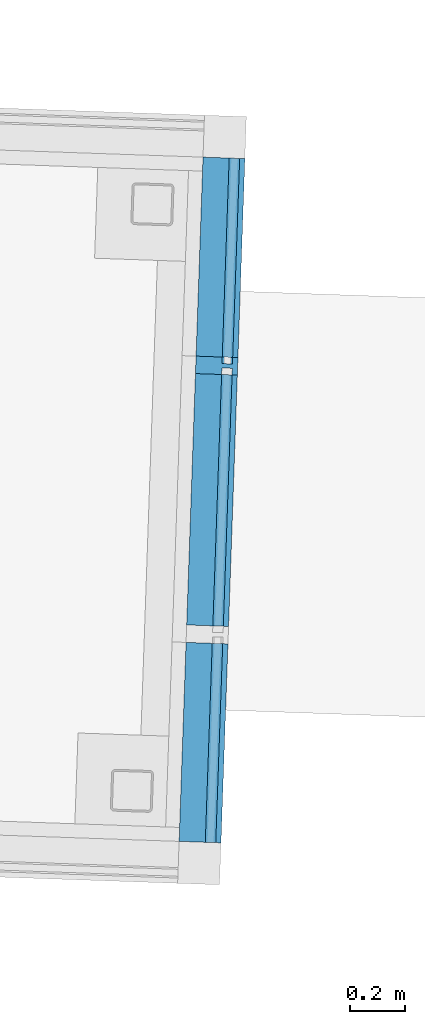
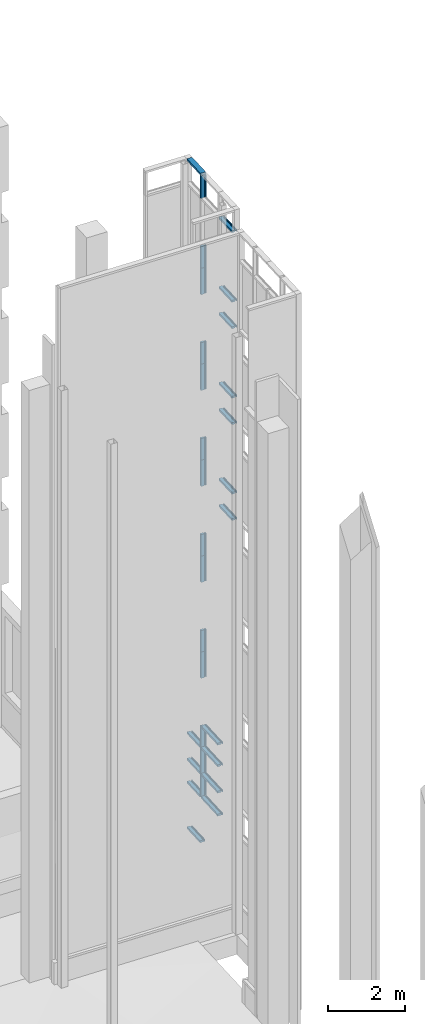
# One storey, part 19 of 44: 30 members, 1 element without a shape of its own.
"""IFC2X3 building model written with IfcOpenShell, lengths in feet."""

from ifc_helpers import new_model, entity, si_unit, converted_unit, derived_unit, direction, frame, origin, place, context, subcontext, project, spatial, polyline, outline, extrude, material, type_object, element, aggregate, save


model = new_model("IFC2X3")

# Units and contexts
model_context = context("Model", 3, precision=0.0001, world=origin(), true_north=direction((0.999390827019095, 0.0348994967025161)))
body_context = subcontext(model_context, "Body", "Model", "MODEL_VIEW")
ifc_project = project(units=[converted_unit("LENGTHUNIT", "FOOT", entity("IfcRatioMeasure", 0.3048), si_unit("LENGTHUNIT", "METRE"), dimensions=[1, 0, 0, 0, 0, 0, 0]), converted_unit("AREAUNIT", "SQUARE FOOT", entity("IfcRatioMeasure", 0.09290304), si_unit("AREAUNIT", "SQUARE_METRE"), dimensions=[2, 0, 0, 0, 0, 0, 0]), converted_unit("VOLUMEUNIT", "CUBIC FOOT", entity("IfcRatioMeasure", 0.028316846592), si_unit("VOLUMEUNIT", "CUBIC_METRE"), dimensions=[3, 0, 0, 0, 0, 0, 0]), converted_unit("PLANEANGLEUNIT", "DEGREE", entity("IfcRatioMeasure", 0.0174532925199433), si_unit("PLANEANGLEUNIT", "RADIAN"), dimensions=[0, 0, 0, 0, 0, 0, 0]), si_unit("MASSUNIT", "GRAM", prefix="KILO"), si_unit("TIMEUNIT", "SECOND"), si_unit("FREQUENCYUNIT", "HERTZ"), si_unit("THERMODYNAMICTEMPERATUREUNIT", "DEGREE_CELSIUS"), derived_unit("THERMALTRANSMITTANCEUNIT", [(si_unit("MASSUNIT", "GRAM", prefix="KILO"), 1), (si_unit("THERMODYNAMICTEMPERATUREUNIT", "KELVIN"), -1), (si_unit("TIMEUNIT", "SECOND"), -3)]), derived_unit("VOLUMETRICFLOWRATEUNIT", [(si_unit("LENGTHUNIT", "METRE"), 3), (si_unit("TIMEUNIT", "SECOND"), -1)]), si_unit("ELECTRICCURRENTUNIT", "AMPERE"), si_unit("ELECTRICVOLTAGEUNIT", "VOLT"), si_unit("POWERUNIT", "WATT"), si_unit("FORCEUNIT", "NEWTON"), si_unit("ILLUMINANCEUNIT", "LUX"), si_unit("LUMINOUSFLUXUNIT", "LUMEN"), si_unit("LUMINOUSINTENSITYUNIT", "CANDELA"), derived_unit("USERDEFINED", [(si_unit("MASSUNIT", "GRAM", prefix="KILO"), -1), (si_unit("LENGTHUNIT", "METRE"), -2), (si_unit("TIMEUNIT", "SECOND"), 3), (si_unit("LUMINOUSFLUXUNIT", "LUMEN"), 1)]), derived_unit("LINEARVELOCITYUNIT", [(si_unit("LENGTHUNIT", "METRE"), 1), (si_unit("TIMEUNIT", "SECOND"), -1)]), si_unit("PRESSUREUNIT", "PASCAL"), derived_unit("USERDEFINED", [(si_unit("LENGTHUNIT", "METRE"), -2), (si_unit("MASSUNIT", "GRAM", prefix="KILO"), 1), (si_unit("TIMEUNIT", "SECOND"), -2)])], contexts=[model_context])

# Site, building, storey
site_placement = place(None, frame((892.518771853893, 322.38689265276, 0.00393700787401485), z_axis=(0.0, 0.0, 1.0), x_axis=(0.0348994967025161, 0.999390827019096, 0.0)))
site = spatial("IfcSite", under=ifc_project, at=site_placement, Name="Default", CompositionType="ELEMENT")
building_placement = place(site_placement, origin())
building = spatial("IfcBuilding", under=site, at=building_placement, CompositionType="ELEMENT")
storey_placement = place(building_placement, frame((0.0, 0.0, 544.75)))
storey = spatial("IfcBuildingStorey", under=building, at=storey_placement, Name="Exist Garage - Ground Level", CompositionType="ELEMENT", Elevation=544.75)

# Curtain wall, members
curtain_wall_type = type_object("IfcCurtainWallType", Name="Curtain Wall:(Existing) Curtainwall - Blank", PredefinedType="NOTDEFINED")
curtain_wall_placement = place(storey_placement, frame((0.0, 0.0, -544.75)))
curtain_wall = element("IfcCurtainWall", 1, at=curtain_wall_placement, inside=storey, type_object=curtain_wall_type, Name="Curtain Wall:(Existing) Curtainwall - Blank", ObjectType="Curtain Wall:(Existing) Curtainwall - Blank")
ifc_material = material(Name="Metal - Aluminum")
member_1_placement = place(curtain_wall_placement, frame((0.0, 0.0, 544.75)))
member_1 = element("IfcMember", 2, at=member_1_placement, material=ifc_material, Name="Curtain Wall:(Existing) Curtainwall - Blank", ObjectType="Curtain Wall:(Existing) Curtainwall - Blank", context=body_context, shape_type="SweptSolid", body=[
    extrude(outline(polyline([(-0.0716145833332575, -0.1875), (0.136718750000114, -0.1875), (0.136718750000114, 0.3125), (-0.0716145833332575, 0.3125), (-0.0716145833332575, 0.0), (0.00651041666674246, 0.0), (0.00651041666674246, -0.125), (-0.0716145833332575, -0.125), (-0.0716145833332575, -0.1875)])), frame((111.552294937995, 230.951453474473, 2.38671875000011), z_axis=(1.0, 0.0, 0.0), x_axis=(0.0, 0.0, -1.0)), (0.0, 0.0, 1.0), 2.37500186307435),
])
member_2_placement = place(curtain_wall_placement, frame((0.0, 0.0, 544.75)))
member_2 = element("IfcMember", 3, at=member_2_placement, material=ifc_material, Name="Curtain Wall:(Existing) Curtainwall - Blank", ObjectType="Curtain Wall:(Existing) Curtainwall - Blank", context=body_context, shape_type="SweptSolid", body=[
    extrude(outline(polyline([(-0.13671875, -0.3125), (0.0716145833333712, -0.3125), (0.0716145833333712, 0.0), (-0.00651041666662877, 0.0), (-0.00651041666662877, 0.125), (0.0716145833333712, 0.125), (0.0716145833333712, 0.1875), (-0.13671875, 0.1875), (-0.13671875, -0.3125)])), frame((113.927296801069, 230.951453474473, 71.9466145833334), z_axis=(-1.0, 0.0, 0.0), x_axis=(0.0, 0.0, -1.0)), (0.0, 0.0, 1.0), 2.47916852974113),
])
member_3_placement = place(curtain_wall_placement, frame((0.0, 0.0, 544.75)))
member_3 = element("IfcMember", 4, at=member_3_placement, material=ifc_material, Name="Curtain Wall:(Existing) Curtainwall - Blank", ObjectType="Curtain Wall:(Existing) Curtainwall - Blank", context=body_context, shape_type="SweptSolid", body=[
    extrude(outline(polyline([(-0.104166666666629, -0.333333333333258), (0.104166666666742, -0.333333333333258), (0.104166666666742, -0.0208333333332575), (0.0260416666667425, -0.0208333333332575), (0.0260416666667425, 0.104166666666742), (0.104166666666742, 0.104166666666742), (0.104166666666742, 0.166666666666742), (-0.104166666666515, 0.166666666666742), (-0.104166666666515, 0.104166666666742), (-0.0260416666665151, 0.104166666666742), (-0.0260416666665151, -0.0208333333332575), (-0.104166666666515, -0.0208333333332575), (-0.104166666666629, -0.333333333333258)])), frame((113.92729680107, 230.93062014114, 9.50000000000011), z_axis=(-1.0, 0.0, 0.0), x_axis=(0.0, 0.0, -1.0)), (0.0, 0.0, 1.0), 2.37500186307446),
])
member_4_placement = place(curtain_wall_placement, frame((0.0, 0.0, 544.75)))
member_4 = element("IfcMember", 5, at=member_4_placement, material=ifc_material, Name="Curtain Wall:(Existing) Curtainwall - Blank", ObjectType="Curtain Wall:(Existing) Curtainwall - Blank", context=body_context, shape_type="SweptSolid", body=[
    extrude(outline(polyline([(-0.104166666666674, -0.333333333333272), (0.104166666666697, -0.333333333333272), (0.10416666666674, -0.0208333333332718), (0.0260416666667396, -0.0208333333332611), (0.0260416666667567, 0.104166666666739), (0.104166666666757, 0.104166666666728), (0.104166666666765, 0.166666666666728), (-0.104166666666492, 0.166666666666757), (-0.104166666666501, 0.104166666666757), (-0.0260416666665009, 0.104166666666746), (-0.0260416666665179, -0.020833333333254), (-0.104166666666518, -0.0208333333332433), (-0.104166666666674, -0.333333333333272)])), frame((111.343961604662, 230.93062014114, 9.50000000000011), z_axis=(-1.0, 0.0, 0.0), x_axis=(0.0, 0.0, -1.0)), (0.0, 0.0, 1.0), 3.00000000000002),
])
member_5_placement = place(curtain_wall_placement, frame((0.0, 0.0, 544.75)))
member_5 = element("IfcMember", 6, at=member_5_placement, material=ifc_material, Name="Curtain Wall:(Existing) Curtainwall - Blank", ObjectType="Curtain Wall:(Existing) Curtainwall - Blank", context=body_context, shape_type="SweptSolid", body=[
    extrude(outline(polyline([(-0.104166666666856, -0.333333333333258), (0.104166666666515, -0.333333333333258), (0.104166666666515, -0.0208333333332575), (0.0260416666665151, -0.0208333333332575), (0.0260416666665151, 0.104166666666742), (0.104166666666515, 0.104166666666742), (0.104166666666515, 0.166666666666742), (-0.104166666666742, 0.166666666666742), (-0.104166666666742, 0.104166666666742), (-0.0260416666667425, 0.104166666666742), (-0.0260416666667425, -0.0208333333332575), (-0.104166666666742, -0.0208333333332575), (-0.104166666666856, -0.333333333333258)])), frame((113.92729680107, 230.93062014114, 7.10416666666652), z_axis=(-1.0, 0.0, 0.0), x_axis=(0.0, 0.0, -1.0)), (0.0, 0.0, 1.0), 2.37500186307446),
])
member_6_placement = place(curtain_wall_placement, frame((0.0, 0.0, 544.75)))
member_6 = element("IfcMember", 7, at=member_6_placement, material=ifc_material, Name="Curtain Wall:(Existing) Curtainwall - Blank", ObjectType="Curtain Wall:(Existing) Curtainwall - Blank", context=body_context, shape_type="SweptSolid", body=[
    extrude(outline(polyline([(-0.0716145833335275, -0.31249999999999), (0.136718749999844, -0.31249999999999), (0.136718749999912, 0.18750000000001), (-0.0716145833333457, 0.187500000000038), (-0.0716145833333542, 0.125000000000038), (0.00651041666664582, 0.125000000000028), (0.00651041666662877, 0.0), (-0.0716145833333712, 0.0), (-0.0716145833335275, -0.31249999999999)])), frame((111.343961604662, 230.951453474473, 7.13671874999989), z_axis=(-1.0, 0.0, 0.0), x_axis=(0.0, 0.0, -1.0)), (0.0, 0.0, 1.0), 3.00000000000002),
])
member_7_placement = place(curtain_wall_placement, frame((0.0, 0.0, 544.75)))
member_7 = element("IfcMember", 8, at=member_7_placement, material=ifc_material, Name="Curtain Wall:(Existing) Curtainwall - Blank", ObjectType="Curtain Wall:(Existing) Curtainwall - Blank", context=body_context, shape_type="SweptSolid", body=[
    extrude(outline(polyline([(-0.104166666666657, -0.333333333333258), (0.104166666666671, -0.333333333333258), (0.104166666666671, -0.0208333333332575), (0.0260416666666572, -0.0208333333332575), (0.0260416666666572, 0.104166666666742), (0.104166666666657, 0.104166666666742), (0.104166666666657, 0.166666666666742), (-0.104166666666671, 0.166666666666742), (-0.104166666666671, 0.104166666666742), (-0.0260416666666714, 0.104166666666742), (-0.0260416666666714, -0.0208333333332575), (-0.104166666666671, -0.0208333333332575), (-0.104166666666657, -0.333333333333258)])), frame((111.448128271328, 230.93062014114, 9.5), z_axis=(0.0, 0.0, 1.0), x_axis=(-1.0, 0.0, 0.0)), (0.0, 0.0, 1.0), 2.75),
])
member_8_placement = place(curtain_wall_placement, frame((0.0, 0.0, 544.75)))
member_8 = element("IfcMember", 9, at=member_8_placement, material=ifc_material, Name="Curtain Wall:(Existing) Curtainwall - Blank", ObjectType="Curtain Wall:(Existing) Curtainwall - Blank", context=body_context, shape_type="SweptSolid", body=[
    extrude(outline(polyline([(-0.104166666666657, -0.333333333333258), (0.104166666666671, -0.333333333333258), (0.104166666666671, -0.0208333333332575), (0.0260416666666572, -0.0208333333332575), (0.0260416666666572, 0.104166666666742), (0.104166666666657, 0.104166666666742), (0.104166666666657, 0.166666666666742), (-0.104166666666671, 0.166666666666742), (-0.104166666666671, 0.104166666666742), (-0.0260416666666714, 0.104166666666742), (-0.0260416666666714, -0.0208333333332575), (-0.104166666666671, -0.0208333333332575), (-0.104166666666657, -0.333333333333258)])), frame((111.448128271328, 230.93062014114, 12.25), z_axis=(0.0, 0.0, 1.0), x_axis=(-1.0, 0.0, 0.0)), (0.0, 0.0, 1.0), 2.25),
])
member_9_placement = place(curtain_wall_placement, frame((0.0, 0.0, 544.75)))
member_9 = element("IfcMember", 10, at=member_9_placement, material=ifc_material, Name="Curtain Wall:(Existing) Curtainwall - Blank", ObjectType="Curtain Wall:(Existing) Curtainwall - Blank", context=body_context, shape_type="SweptSolid", body=[
    extrude(outline(polyline([(-0.104166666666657, -0.333333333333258), (0.104166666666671, -0.333333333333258), (0.104166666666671, -0.0208333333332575), (0.0260416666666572, -0.0208333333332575), (0.0260416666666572, 0.104166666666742), (0.104166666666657, 0.104166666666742), (0.104166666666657, 0.166666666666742), (-0.104166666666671, 0.166666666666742), (-0.104166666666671, 0.104166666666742), (-0.0260416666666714, 0.104166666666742), (-0.0260416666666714, -0.0208333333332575), (-0.104166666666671, -0.0208333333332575), (-0.104166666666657, -0.333333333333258)])), frame((111.448128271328, 230.93062014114, 19.5), z_axis=(0.0, 0.0, 1.0), x_axis=(-1.0, 0.0, 0.0)), (0.0, 0.0, 1.0), 2.75),
])
member_10_placement = place(curtain_wall_placement, frame((0.0, 0.0, 544.75)))
member_10 = element("IfcMember", 11, at=member_10_placement, material=ifc_material, Name="Curtain Wall:(Existing) Curtainwall - Blank", ObjectType="Curtain Wall:(Existing) Curtainwall - Blank", context=body_context, shape_type="SweptSolid", body=[
    extrude(outline(polyline([(-0.104166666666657, -0.333333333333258), (0.104166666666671, -0.333333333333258), (0.104166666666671, -0.0208333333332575), (0.0260416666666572, -0.0208333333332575), (0.0260416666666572, 0.104166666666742), (0.104166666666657, 0.104166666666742), (0.104166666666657, 0.166666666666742), (-0.104166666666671, 0.166666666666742), (-0.104166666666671, 0.104166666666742), (-0.0260416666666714, 0.104166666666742), (-0.0260416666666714, -0.0208333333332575), (-0.104166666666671, -0.0208333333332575), (-0.104166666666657, -0.333333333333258)])), frame((111.448128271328, 230.93062014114, 22.25), z_axis=(0.0, 0.0, 1.0), x_axis=(-1.0, 0.0, 0.0)), (0.0, 0.0, 1.0), 2.25),
])
member_11_placement = place(curtain_wall_placement, frame((0.0, 0.0, 544.75)))
member_11 = element("IfcMember", 12, at=member_11_placement, material=ifc_material, Name="Curtain Wall:(Existing) Curtainwall - Blank", ObjectType="Curtain Wall:(Existing) Curtainwall - Blank", context=body_context, shape_type="SweptSolid", body=[
    extrude(outline(polyline([(-0.104166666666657, -0.333333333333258), (0.104166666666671, -0.333333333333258), (0.104166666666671, -0.0208333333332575), (0.0260416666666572, -0.0208333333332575), (0.0260416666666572, 0.104166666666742), (0.104166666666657, 0.104166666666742), (0.104166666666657, 0.166666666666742), (-0.104166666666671, 0.166666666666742), (-0.104166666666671, 0.104166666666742), (-0.0260416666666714, 0.104166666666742), (-0.0260416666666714, -0.0208333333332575), (-0.104166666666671, -0.0208333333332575), (-0.104166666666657, -0.333333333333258)])), frame((111.448128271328, 230.93062014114, 29.5), z_axis=(0.0, 0.0, 1.0), x_axis=(-1.0, 0.0, 0.0)), (0.0, 0.0, 1.0), 2.75),
])
member_12_placement = place(curtain_wall_placement, frame((0.0, 0.0, 544.75)))
member_12 = element("IfcMember", 13, at=member_12_placement, material=ifc_material, Name="Curtain Wall:(Existing) Curtainwall - Blank", ObjectType="Curtain Wall:(Existing) Curtainwall - Blank", context=body_context, shape_type="SweptSolid", body=[
    extrude(outline(polyline([(-0.104166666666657, -0.333333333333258), (0.104166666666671, -0.333333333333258), (0.104166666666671, -0.0208333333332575), (0.0260416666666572, -0.0208333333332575), (0.0260416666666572, 0.104166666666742), (0.104166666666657, 0.104166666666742), (0.104166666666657, 0.166666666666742), (-0.104166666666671, 0.166666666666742), (-0.104166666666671, 0.104166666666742), (-0.0260416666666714, 0.104166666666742), (-0.0260416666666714, -0.0208333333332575), (-0.104166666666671, -0.0208333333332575), (-0.104166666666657, -0.333333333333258)])), frame((111.448128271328, 230.93062014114, 32.25), z_axis=(0.0, 0.0, 1.0), x_axis=(-1.0, 0.0, 0.0)), (0.0, 0.0, 1.0), 2.25),
])
member_13_placement = place(curtain_wall_placement, frame((0.0, 0.0, 544.75)))
member_13 = element("IfcMember", 14, at=member_13_placement, material=ifc_material, Name="Curtain Wall:(Existing) Curtainwall - Blank", ObjectType="Curtain Wall:(Existing) Curtainwall - Blank", context=body_context, shape_type="SweptSolid", body=[
    extrude(outline(polyline([(-0.104166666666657, -0.333333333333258), (0.104166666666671, -0.333333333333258), (0.104166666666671, -0.0208333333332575), (0.0260416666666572, -0.0208333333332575), (0.0260416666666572, 0.104166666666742), (0.104166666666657, 0.104166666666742), (0.104166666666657, 0.166666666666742), (-0.104166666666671, 0.166666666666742), (-0.104166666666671, 0.104166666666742), (-0.0260416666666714, 0.104166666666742), (-0.0260416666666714, -0.0208333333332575), (-0.104166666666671, -0.0208333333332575), (-0.104166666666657, -0.333333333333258)])), frame((111.448128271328, 230.93062014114, 39.5), z_axis=(0.0, 0.0, 1.0), x_axis=(-1.0, 0.0, 0.0)), (0.0, 0.0, 1.0), 2.75),
])
member_14_placement = place(curtain_wall_placement, frame((0.0, 0.0, 544.75)))
member_14 = element("IfcMember", 15, at=member_14_placement, material=ifc_material, Name="Curtain Wall:(Existing) Curtainwall - Blank", ObjectType="Curtain Wall:(Existing) Curtainwall - Blank", context=body_context, shape_type="SweptSolid", body=[
    extrude(outline(polyline([(-0.104166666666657, -0.333333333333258), (0.104166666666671, -0.333333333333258), (0.104166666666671, -0.0208333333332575), (0.0260416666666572, -0.0208333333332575), (0.0260416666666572, 0.104166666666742), (0.104166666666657, 0.104166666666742), (0.104166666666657, 0.166666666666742), (-0.104166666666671, 0.166666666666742), (-0.104166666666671, 0.104166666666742), (-0.0260416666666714, 0.104166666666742), (-0.0260416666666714, -0.0208333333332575), (-0.104166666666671, -0.0208333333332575), (-0.104166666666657, -0.333333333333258)])), frame((111.448128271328, 230.93062014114, 42.25), z_axis=(0.0, 0.0, 1.0), x_axis=(-1.0, 0.0, 0.0)), (0.0, 0.0, 1.0), 2.25),
])
member_15_placement = place(curtain_wall_placement, frame((0.0, 0.0, 544.75)))
member_15 = element("IfcMember", 16, at=member_15_placement, material=ifc_material, Name="Curtain Wall:(Existing) Curtainwall - Blank", ObjectType="Curtain Wall:(Existing) Curtainwall - Blank", context=body_context, shape_type="SweptSolid", body=[
    extrude(outline(polyline([(-0.104166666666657, -0.333333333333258), (0.104166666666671, -0.333333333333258), (0.104166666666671, -0.0208333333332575), (0.0260416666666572, -0.0208333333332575), (0.0260416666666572, 0.104166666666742), (0.104166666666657, 0.104166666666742), (0.104166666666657, 0.166666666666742), (-0.104166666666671, 0.166666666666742), (-0.104166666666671, 0.104166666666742), (-0.0260416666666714, 0.104166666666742), (-0.0260416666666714, -0.0208333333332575), (-0.104166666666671, -0.0208333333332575), (-0.104166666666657, -0.333333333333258)])), frame((111.448128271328, 230.93062014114, 49.5), z_axis=(0.0, 0.0, 1.0), x_axis=(-1.0, 0.0, 0.0)), (0.0, 0.0, 1.0), 2.75),
])
member_16_placement = place(curtain_wall_placement, frame((0.0, 0.0, 544.75)))
member_16 = element("IfcMember", 17, at=member_16_placement, material=ifc_material, Name="Curtain Wall:(Existing) Curtainwall - Blank", ObjectType="Curtain Wall:(Existing) Curtainwall - Blank", context=body_context, shape_type="SweptSolid", body=[
    extrude(outline(polyline([(-0.104166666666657, -0.333333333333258), (0.104166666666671, -0.333333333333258), (0.104166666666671, -0.0208333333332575), (0.0260416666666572, -0.0208333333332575), (0.0260416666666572, 0.104166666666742), (0.104166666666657, 0.104166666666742), (0.104166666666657, 0.166666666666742), (-0.104166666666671, 0.166666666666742), (-0.104166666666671, 0.104166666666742), (-0.0260416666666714, 0.104166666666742), (-0.0260416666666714, -0.0208333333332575), (-0.104166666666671, -0.0208333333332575), (-0.104166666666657, -0.333333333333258)])), frame((111.448128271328, 230.93062014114, 52.25), z_axis=(0.0, 0.0, 1.0), x_axis=(-1.0, 0.0, 0.0)), (0.0, 0.0, 1.0), 2.25),
])
member_17_placement = place(curtain_wall_placement, frame((0.0, 0.0, 544.75)))
member_17 = element("IfcMember", 18, at=member_17_placement, material=ifc_material, Name="Curtain Wall:(Existing) Curtainwall - Blank", ObjectType="Curtain Wall:(Existing) Curtainwall - Blank", context=body_context, shape_type="SweptSolid", body=[
    extrude(outline(polyline([(-0.104166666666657, -0.333333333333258), (0.104166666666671, -0.333333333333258), (0.104166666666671, -0.0208333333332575), (0.0260416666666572, -0.0208333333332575), (0.0260416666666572, 0.104166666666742), (0.104166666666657, 0.104166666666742), (0.104166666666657, 0.166666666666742), (-0.104166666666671, 0.166666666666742), (-0.104166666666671, 0.104166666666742), (-0.0260416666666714, 0.104166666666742), (-0.0260416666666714, -0.0208333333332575), (-0.104166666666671, -0.0208333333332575), (-0.104166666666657, -0.333333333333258)])), frame((111.448128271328, 230.93062014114, 59.5), z_axis=(0.0, 0.0, 1.0), x_axis=(-1.0, 0.0, 0.0)), (0.0, 0.0, 1.0), 2.75),
])
member_18_placement = place(curtain_wall_placement, frame((0.0, 0.0, 544.75)))
member_18 = element("IfcMember", 19, at=member_18_placement, material=ifc_material, Name="Curtain Wall:(Existing) Curtainwall - Blank", ObjectType="Curtain Wall:(Existing) Curtainwall - Blank", context=body_context, shape_type="SweptSolid", body=[
    extrude(outline(polyline([(-0.104166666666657, -0.333333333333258), (0.104166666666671, -0.333333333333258), (0.104166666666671, -0.0208333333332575), (0.0260416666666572, -0.0208333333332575), (0.0260416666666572, 0.104166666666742), (0.104166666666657, 0.104166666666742), (0.104166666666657, 0.166666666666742), (-0.104166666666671, 0.166666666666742), (-0.104166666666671, 0.104166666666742), (-0.0260416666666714, 0.104166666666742), (-0.0260416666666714, -0.0208333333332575), (-0.104166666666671, -0.0208333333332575), (-0.104166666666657, -0.333333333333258)])), frame((111.448128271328, 230.93062014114, 62.25), z_axis=(0.0, 0.0, 1.0), x_axis=(-1.0, 0.0, 0.0)), (0.0, 0.0, 1.0), 2.25),
])
member_19_placement = place(curtain_wall_placement, frame((0.0, 0.0, 544.75)))
member_19 = element("IfcMember", 20, at=member_19_placement, material=ifc_material, Name="Curtain Wall:(Existing) Curtainwall - Blank", ObjectType="Curtain Wall:(Existing) Curtainwall - Blank", context=body_context, shape_type="SweptSolid", body=[
    extrude(outline(polyline([(-0.104166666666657, -0.333333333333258), (0.104166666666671, -0.333333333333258), (0.104166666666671, -0.0208333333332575), (0.0260416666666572, -0.0208333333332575), (0.0260416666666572, 0.104166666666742), (0.104166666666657, 0.104166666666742), (0.104166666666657, 0.166666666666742), (-0.104166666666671, 0.166666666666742), (-0.104166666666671, 0.104166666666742), (-0.0260416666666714, 0.104166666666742), (-0.0260416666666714, -0.0208333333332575), (-0.104166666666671, -0.0208333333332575), (-0.104166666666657, -0.333333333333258)])), frame((111.448128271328, 230.93062014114, 69.5), z_axis=(0.0, 0.0, 1.0), x_axis=(-1.0, 0.0, 0.0)), (0.0, 0.0, 1.0), 2.375),
])
member_20_placement = place(curtain_wall_placement, frame((0.0, 0.0, 544.75)))
member_20 = element("IfcMember", 21, at=member_20_placement, material=ifc_material, Name="Curtain Wall:(Existing) Curtainwall - Blank", ObjectType="Curtain Wall:(Existing) Curtainwall - Blank", context=body_context, shape_type="SweptSolid", body=[
    extrude(outline(polyline([(-0.104166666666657, -0.333333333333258), (0.104166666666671, -0.333333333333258), (0.104166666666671, -0.0208333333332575), (0.0260416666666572, -0.0208333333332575), (0.0260416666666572, 0.104166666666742), (0.104166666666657, 0.104166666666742), (0.104166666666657, 0.166666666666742), (-0.104166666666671, 0.166666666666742), (-0.104166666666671, 0.104166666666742), (-0.0260416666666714, 0.104166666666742), (-0.0260416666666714, -0.0208333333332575), (-0.104166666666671, -0.0208333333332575), (-0.104166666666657, -0.333333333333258)])), frame((111.448128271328, 230.93062014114, 7.10416666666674), z_axis=(0.0, 0.0, 1.0), x_axis=(-1.0, 0.0, 0.0)), (0.0, 0.0, 1.0), 2.39583333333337),
])
member_21_placement = place(curtain_wall_placement, frame((0.0, 0.0, 544.75)))
member_21 = element("IfcMember", 22, at=member_21_placement, material=ifc_material, Name="Curtain Wall:(Existing) Curtainwall - Blank", ObjectType="Curtain Wall:(Existing) Curtainwall - Blank", context=body_context, shape_type="SweptSolid", body=[
    extrude(outline(polyline([(-0.104166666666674, -0.333333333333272), (0.104166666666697, -0.333333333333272), (0.10416666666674, -0.0208333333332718), (0.0260416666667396, -0.0208333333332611), (0.0260416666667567, 0.104166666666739), (0.104166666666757, 0.104166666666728), (0.104166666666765, 0.166666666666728), (-0.104166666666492, 0.166666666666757), (-0.104166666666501, 0.104166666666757), (-0.0260416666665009, 0.104166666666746), (-0.0260416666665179, -0.020833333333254), (-0.104166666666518, -0.0208333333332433), (-0.104166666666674, -0.333333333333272)])), frame((111.343961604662, 230.93062014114, 12.2500000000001), z_axis=(-1.0, 0.0, 0.0), x_axis=(0.0, 0.0, -1.0)), (0.0, 0.0, 1.0), 3.00000000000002),
])
member_22_placement = place(curtain_wall_placement, frame((0.0, 0.0, 544.75)))
member_22 = element("IfcMember", 23, at=member_22_placement, material=ifc_material, Name="Curtain Wall:(Existing) Curtainwall - Blank", ObjectType="Curtain Wall:(Existing) Curtainwall - Blank", context=body_context, shape_type="SweptSolid", body=[
    extrude(outline(polyline([(-0.104166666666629, -0.333333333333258), (0.104166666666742, -0.333333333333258), (0.104166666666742, -0.0208333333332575), (0.0260416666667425, -0.0208333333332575), (0.0260416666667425, 0.104166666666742), (0.104166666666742, 0.104166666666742), (0.104166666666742, 0.166666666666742), (-0.104166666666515, 0.166666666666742), (-0.104166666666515, 0.104166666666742), (-0.0260416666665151, 0.104166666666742), (-0.0260416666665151, -0.0208333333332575), (-0.104166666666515, -0.0208333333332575), (-0.104166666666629, -0.333333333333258)])), frame((113.92729680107, 230.93062014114, 12.2500000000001), z_axis=(-1.0, 0.0, 0.0), x_axis=(0.0, 0.0, -1.0)), (0.0, 0.0, 1.0), 2.37500186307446),
])
member_23_placement = place(curtain_wall_placement, frame((0.0, 0.0, 544.75)))
member_23 = element("IfcMember", 24, at=member_23_placement, material=ifc_material, Name="Curtain Wall:(Existing) Curtainwall - Blank", ObjectType="Curtain Wall:(Existing) Curtainwall - Blank", context=body_context, shape_type="SweptSolid", body=[
    extrude(outline(polyline([(-0.104166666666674, -0.333333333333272), (0.104166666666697, -0.333333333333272), (0.10416666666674, -0.0208333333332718), (0.0260416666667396, -0.0208333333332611), (0.0260416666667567, 0.104166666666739), (0.104166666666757, 0.104166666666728), (0.104166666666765, 0.166666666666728), (-0.104166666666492, 0.166666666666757), (-0.104166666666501, 0.104166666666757), (-0.0260416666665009, 0.104166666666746), (-0.0260416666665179, -0.020833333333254), (-0.104166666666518, -0.0208333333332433), (-0.104166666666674, -0.333333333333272)])), frame((111.343961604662, 230.93062014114, 14.5000000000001), z_axis=(-1.0, 0.0, 0.0), x_axis=(0.0, 0.0, -1.0)), (0.0, 0.0, 1.0), 3.00000000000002),
])
member_24_placement = place(curtain_wall_placement, frame((0.0, 0.0, 544.75)))
member_24 = element("IfcMember", 25, at=member_24_placement, material=ifc_material, Name="Curtain Wall:(Existing) Curtainwall - Blank", ObjectType="Curtain Wall:(Existing) Curtainwall - Blank", context=body_context, shape_type="SweptSolid", body=[
    extrude(outline(polyline([(-0.104166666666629, -0.333333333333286), (0.104166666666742, -0.333333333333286), (0.104166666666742, -0.020833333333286), (0.0260416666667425, -0.020833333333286), (0.0260416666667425, 0.104166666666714), (0.104166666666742, 0.104166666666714), (0.104166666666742, 0.166666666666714), (-0.104166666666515, 0.166666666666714), (-0.104166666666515, 0.104166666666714), (-0.0260416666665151, 0.104166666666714), (-0.0260416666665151, -0.020833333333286), (-0.104166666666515, -0.020833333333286), (-0.104166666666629, -0.333333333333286)])), frame((108.135628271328, 230.93062014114, 39.5000000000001), z_axis=(-1.0, 0.0, 0.0), x_axis=(0.0, 0.0, -1.0)), (0.0, 0.0, 1.0), 2.37500186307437),
])
member_25_placement = place(curtain_wall_placement, frame((0.0, 0.0, 544.75)))
member_25 = element("IfcMember", 26, at=member_25_placement, material=ifc_material, Name="Curtain Wall:(Existing) Curtainwall - Blank", ObjectType="Curtain Wall:(Existing) Curtainwall - Blank", context=body_context, shape_type="SweptSolid", body=[
    extrude(outline(polyline([(-0.104166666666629, -0.333333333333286), (0.104166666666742, -0.333333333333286), (0.104166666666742, -0.020833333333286), (0.0260416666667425, -0.020833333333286), (0.0260416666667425, 0.104166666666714), (0.104166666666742, 0.104166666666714), (0.104166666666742, 0.166666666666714), (-0.104166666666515, 0.166666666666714), (-0.104166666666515, 0.104166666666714), (-0.0260416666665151, 0.104166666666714), (-0.0260416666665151, -0.020833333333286), (-0.104166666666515, -0.020833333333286), (-0.104166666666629, -0.333333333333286)])), frame((108.135628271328, 230.93062014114, 42.2500000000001), z_axis=(-1.0, 0.0, 0.0), x_axis=(0.0, 0.0, -1.0)), (0.0, 0.0, 1.0), 2.37500186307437),
])
member_26_placement = place(curtain_wall_placement, frame((0.0, 0.0, 544.75)))
member_26 = element("IfcMember", 27, at=member_26_placement, material=ifc_material, Name="Curtain Wall:(Existing) Curtainwall - Blank", ObjectType="Curtain Wall:(Existing) Curtainwall - Blank", context=body_context, shape_type="SweptSolid", body=[
    extrude(outline(polyline([(-0.104166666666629, -0.333333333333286), (0.104166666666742, -0.333333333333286), (0.104166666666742, -0.020833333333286), (0.0260416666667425, -0.020833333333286), (0.0260416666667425, 0.104166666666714), (0.104166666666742, 0.104166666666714), (0.104166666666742, 0.166666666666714), (-0.104166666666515, 0.166666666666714), (-0.104166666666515, 0.104166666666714), (-0.0260416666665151, 0.104166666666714), (-0.0260416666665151, -0.020833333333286), (-0.104166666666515, -0.020833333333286), (-0.104166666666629, -0.333333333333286)])), frame((108.135628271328, 230.93062014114, 49.5000000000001), z_axis=(-1.0, 0.0, 0.0), x_axis=(0.0, 0.0, -1.0)), (0.0, 0.0, 1.0), 2.37500186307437),
])
member_27_placement = place(curtain_wall_placement, frame((0.0, 0.0, 544.75)))
member_27 = element("IfcMember", 28, at=member_27_placement, material=ifc_material, Name="Curtain Wall:(Existing) Curtainwall - Blank", ObjectType="Curtain Wall:(Existing) Curtainwall - Blank", context=body_context, shape_type="SweptSolid", body=[
    extrude(outline(polyline([(-0.104166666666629, -0.333333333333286), (0.104166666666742, -0.333333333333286), (0.104166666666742, -0.020833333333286), (0.0260416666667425, -0.020833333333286), (0.0260416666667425, 0.104166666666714), (0.104166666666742, 0.104166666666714), (0.104166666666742, 0.166666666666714), (-0.104166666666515, 0.166666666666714), (-0.104166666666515, 0.104166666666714), (-0.0260416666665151, 0.104166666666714), (-0.0260416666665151, -0.020833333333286), (-0.104166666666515, -0.020833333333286), (-0.104166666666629, -0.333333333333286)])), frame((108.135628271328, 230.93062014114, 52.2500000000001), z_axis=(-1.0, 0.0, 0.0), x_axis=(0.0, 0.0, -1.0)), (0.0, 0.0, 1.0), 2.37500186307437),
])
member_28_placement = place(curtain_wall_placement, frame((0.0, 0.0, 544.75)))
member_28 = element("IfcMember", 29, at=member_28_placement, material=ifc_material, Name="Curtain Wall:(Existing) Curtainwall - Blank", ObjectType="Curtain Wall:(Existing) Curtainwall - Blank", context=body_context, shape_type="SweptSolid", body=[
    extrude(outline(polyline([(-0.104166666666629, -0.333333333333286), (0.104166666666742, -0.333333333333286), (0.104166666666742, -0.020833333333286), (0.0260416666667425, -0.020833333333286), (0.0260416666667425, 0.104166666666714), (0.104166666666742, 0.104166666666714), (0.104166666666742, 0.166666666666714), (-0.104166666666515, 0.166666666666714), (-0.104166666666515, 0.104166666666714), (-0.0260416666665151, 0.104166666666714), (-0.0260416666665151, -0.020833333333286), (-0.104166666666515, -0.020833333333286), (-0.104166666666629, -0.333333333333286)])), frame((108.135628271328, 230.93062014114, 59.5000000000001), z_axis=(-1.0, 0.0, 0.0), x_axis=(0.0, 0.0, -1.0)), (0.0, 0.0, 1.0), 2.37500186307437),
])
member_29_placement = place(curtain_wall_placement, frame((0.0, 0.0, 544.75)))
member_29 = element("IfcMember", 30, at=member_29_placement, material=ifc_material, Name="Curtain Wall:(Existing) Curtainwall - Blank", ObjectType="Curtain Wall:(Existing) Curtainwall - Blank", context=body_context, shape_type="SweptSolid", body=[
    extrude(outline(polyline([(-0.104166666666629, -0.333333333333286), (0.104166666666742, -0.333333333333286), (0.104166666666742, -0.020833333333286), (0.0260416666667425, -0.020833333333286), (0.0260416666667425, 0.104166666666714), (0.104166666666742, 0.104166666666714), (0.104166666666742, 0.166666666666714), (-0.104166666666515, 0.166666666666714), (-0.104166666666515, 0.104166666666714), (-0.0260416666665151, 0.104166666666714), (-0.0260416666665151, -0.020833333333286), (-0.104166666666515, -0.020833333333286), (-0.104166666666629, -0.333333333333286)])), frame((108.135628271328, 230.93062014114, 62.2500000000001), z_axis=(-1.0, 0.0, 0.0), x_axis=(0.0, 0.0, -1.0)), (0.0, 0.0, 1.0), 2.37500186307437),
])
member_30_placement = place(curtain_wall_placement, frame((0.0, 0.0, 544.75)))
member_30 = element("IfcMember", 31, at=member_30_placement, material=ifc_material, Name="Curtain Wall:(Existing) Curtainwall - Blank", ObjectType="Curtain Wall:(Existing) Curtainwall - Blank", context=body_context, shape_type="SweptSolid", body=[
    extrude(outline(polyline([(-0.104166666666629, -0.333333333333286), (0.104166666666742, -0.333333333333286), (0.104166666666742, -0.020833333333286), (0.0260416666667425, -0.020833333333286), (0.0260416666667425, 0.104166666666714), (0.104166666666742, 0.104166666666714), (0.104166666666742, 0.166666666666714), (-0.104166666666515, 0.166666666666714), (-0.104166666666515, 0.104166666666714), (-0.0260416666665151, 0.104166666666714), (-0.0260416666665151, -0.020833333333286), (-0.104166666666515, -0.020833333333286), (-0.104166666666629, -0.333333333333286)])), frame((108.135628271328, 230.93062014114, 69.5000000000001), z_axis=(-1.0, 0.0, 0.0), x_axis=(0.0, 0.0, -1.0)), (0.0, 0.0, 1.0), 2.37500186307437),
])
aggregate(curtain_wall, [member_1, member_2, member_3, member_4, member_5, member_6, member_7, member_8, member_9, member_10, member_11, member_12, member_13, member_14, member_15, member_16, member_17, member_18, member_19, member_20, member_21, member_22, member_23, member_24, member_25, member_26, member_27, member_28, member_29, member_30])

save(model, "model.ifc")
